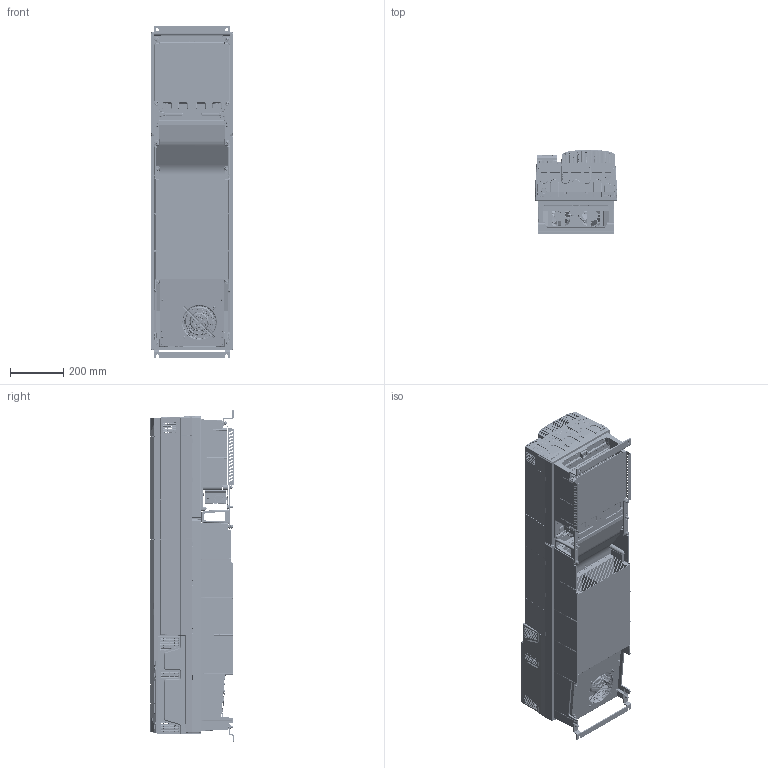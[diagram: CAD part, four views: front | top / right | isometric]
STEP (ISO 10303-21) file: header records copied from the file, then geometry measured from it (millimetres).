
FILE_DESCRIPTION((''),'2;1');
FILE_NAME('UNI-M_FS11E-T_SW0001','2016-03-21T',('coopst01'),(''),'PRO/ENGINEER BY PARAMETRIC TECHNOLOGY CORPORATION, 2011490','PRO/ENGINEER BY PARAMETRIC TECHNOLOGY CORPORATION, 2011490','');
FILE_SCHEMA(('CONFIG_CONTROL_DESIGN'));
Products named in the file (1): UNI-M_FS11E-T_SW0001
Bounding box: 310.11 x 313.1 x 1242.45 mm (x, y, z)
Surface area: 6435070.6 mm2 (no closed solid volume)
Topology: 0 solids, 2407 shells, 23943 faces, 113093 edges, 88663 vertices
Faces by surface type: plane 9593, cylinder 8049, bspline 3391, cone 1199, torus 1115, sphere 374, extrusion 222
Entity records: 1558879 total; most frequent: CARTESIAN_POINT 577114, ORIENTED_EDGE 150556, DIRECTION 146606, EDGE_CURVE 113011, VERTEX_POINT 88662, VECTOR 61392, LINE 61170, AXIS2_PLACEMENT_3D 42607
